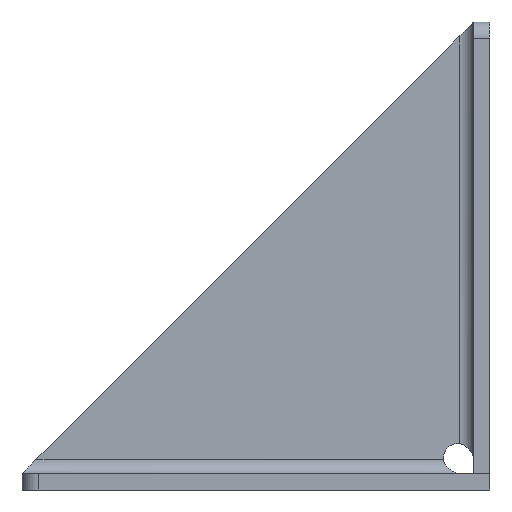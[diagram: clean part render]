
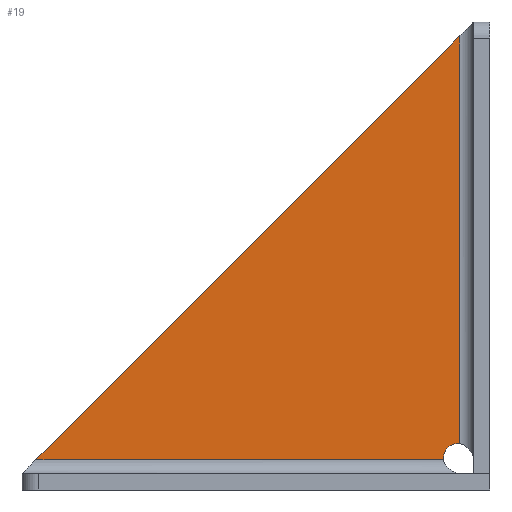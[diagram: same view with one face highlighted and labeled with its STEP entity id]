
A CAD part, left-side view. The second image highlights one B-rep face of the part: STEP entity #19.
In plain terms, the highlighted planar face has unit normal (-1, 0, 0).
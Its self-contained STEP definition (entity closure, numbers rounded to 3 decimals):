
#18 = FACE_OUTER_BOUND ( 'NONE', #721, .T. ) ;
#19 = ADVANCED_FACE ( 'NONE', ( #18 ), #250, .T. ) ;
#44 = CARTESIAN_POINT ( 'NONE',  ( 18.783, -13.203, 84.4 ) ) ;
#66 = EDGE_CURVE ( 'NONE', #120, #1230, #267, .T. ) ;
#73 = LINE ( 'NONE', #1171, #1287 ) ;
#83 = LINE ( 'NONE', #1528, #1034 ) ;
#105 = CARTESIAN_POINT ( 'NONE',  ( 18.783, -15.803, 87. ) ) ;
#113 = DIRECTION ( 'NONE',  ( 0., 0., 1. ) ) ;
#120 = VERTEX_POINT ( 'NONE', #1055 ) ;
#145 = EDGE_CURVE ( 'NONE', #194, #1259, #1131, .T. ) ;
#170 = VECTOR ( 'NONE', #233, 1000. ) ;
#190 = CIRCLE ( 'NONE', #811, 2.5 ) ;
#194 = VERTEX_POINT ( 'NONE', #371 ) ;
#212 = CARTESIAN_POINT ( 'NONE',  ( 18.783, -10.203, 5.6 ) ) ;
#227 = VECTOR ( 'NONE', #428, 1000. ) ;
#233 = DIRECTION ( 'NONE',  ( 0., -0.707, 0.707 ) ) ;
#250 = PLANE ( 'NONE',  #911 ) ;
#254 = CARTESIAN_POINT ( 'NONE',  ( 18.783, 0., 8.6 ) ) ;
#267 = LINE ( 'NONE', #1143, #923 ) ;
#279 = ORIENTED_EDGE ( 'NONE', *, *, #66, .T. ) ;
#328 = DIRECTION ( 'NONE',  ( -1., 0., 0. ) ) ;
#371 = CARTESIAN_POINT ( 'NONE',  ( 18.783, -12.703, 8.6 ) ) ;
#428 = DIRECTION ( 'NONE',  ( 0., -1., 0. ) ) ;
#545 = DIRECTION ( 'NONE',  ( 0., -1., 0. ) ) ;
#547 = EDGE_CURVE ( 'NONE', #1364, #194, #190, .T. ) ;
#563 = DIRECTION ( 'NONE',  ( 0., -1., 0. ) ) ;
#584 = ORIENTED_EDGE ( 'NONE', *, *, #638, .T. ) ;
#638 = EDGE_CURVE ( 'NONE', #1230, #1364, #73, .T. ) ;
#721 = EDGE_LOOP ( 'NONE', ( #1113, #279, #584, #1022, #1365, #1174 ) ) ;
#790 = EDGE_CURVE ( 'NONE', #120, #1057, #1178, .T. ) ;
#811 = AXIS2_PLACEMENT_3D ( 'NONE', #1261, #1373, #563 ) ;
#911 = AXIS2_PLACEMENT_3D ( 'NONE', #1402, #328, #1124 ) ;
#912 = DIRECTION ( 'NONE',  ( 0., 0., 1. ) ) ;
#923 = VECTOR ( 'NONE', #545, 1000. ) ;
#1022 = ORIENTED_EDGE ( 'NONE', *, *, #547, .T. ) ;
#1034 = VECTOR ( 'NONE', #113, 1000. ) ;
#1055 = CARTESIAN_POINT ( 'NONE',  ( 18.783, 65.597, 5.6 ) ) ;
#1057 = VERTEX_POINT ( 'NONE', #44 ) ;
#1113 = ORIENTED_EDGE ( 'NONE', *, *, #790, .F. ) ;
#1124 = DIRECTION ( 'NONE',  ( 0., -1., 0. ) ) ;
#1131 = LINE ( 'NONE', #254, #227 ) ;
#1143 = CARTESIAN_POINT ( 'NONE',  ( 18.783, -10.203, 5.6 ) ) ;
#1171 = CARTESIAN_POINT ( 'NONE',  ( 18.783, -10.203, 0. ) ) ;
#1174 = ORIENTED_EDGE ( 'NONE', *, *, #1409, .T. ) ;
#1178 = LINE ( 'NONE', #105, #170 ) ;
#1230 = VERTEX_POINT ( 'NONE', #212 ) ;
#1259 = VERTEX_POINT ( 'NONE', #1262 ) ;
#1261 = CARTESIAN_POINT ( 'NONE',  ( 18.783, -12.703, 6.1 ) ) ;
#1262 = CARTESIAN_POINT ( 'NONE',  ( 18.783, -13.203, 8.6 ) ) ;
#1287 = VECTOR ( 'NONE', #912, 1000. ) ;
#1364 = VERTEX_POINT ( 'NONE', #1400 ) ;
#1365 = ORIENTED_EDGE ( 'NONE', *, *, #145, .T. ) ;
#1373 = DIRECTION ( 'NONE',  ( 1., 0., 0. ) ) ;
#1400 = CARTESIAN_POINT ( 'NONE',  ( 18.783, -10.203, 6.1 ) ) ;
#1402 = CARTESIAN_POINT ( 'NONE',  ( 18.783, 0., 0. ) ) ;
#1409 = EDGE_CURVE ( 'NONE', #1259, #1057, #83, .T. ) ;
#1528 = CARTESIAN_POINT ( 'NONE',  ( 18.783, -13.203, 0. ) ) ;
